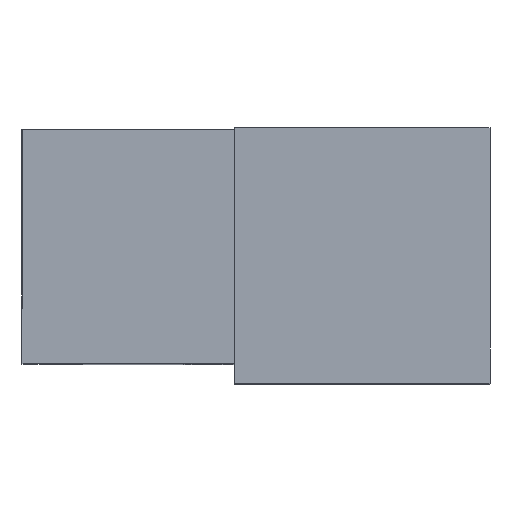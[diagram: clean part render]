
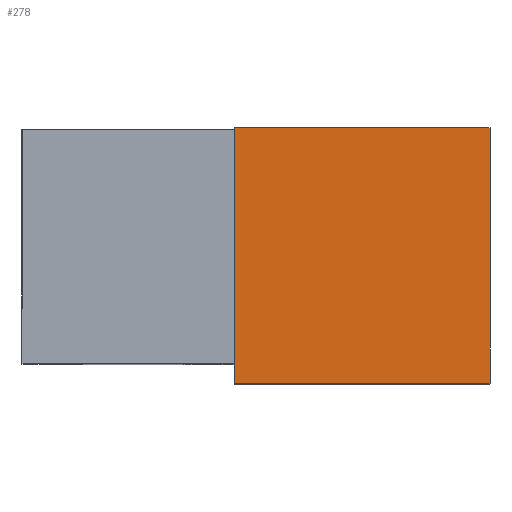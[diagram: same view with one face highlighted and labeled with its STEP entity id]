
A CAD part, top view. The second image highlights one B-rep face of the part: STEP entity #278.
In plain terms, the highlighted planar face has unit normal (0, 0, 1).
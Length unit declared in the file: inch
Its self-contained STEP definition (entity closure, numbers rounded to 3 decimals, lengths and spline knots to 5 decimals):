
#11 = FACE_OUTER_BOUND ( 'NONE', #587, .T. ) ;
#24 = ORIENTED_EDGE ( 'NONE', *, *, #522, .F. ) ;
#42 = VECTOR ( 'NONE', #675, 39.37008 ) ;
#50 = CARTESIAN_POINT ( 'NONE',  ( -1.0636, 0.375, 1.16833 ) ) ;
#62 = VERTEX_POINT ( 'NONE', #247 ) ;
#70 = EDGE_CURVE ( 'NONE', #413, #62, #426, .T. ) ;
#76 = CARTESIAN_POINT ( 'NONE',  ( -1.0636, 0.375, 1.16833 ) ) ;
#108 = ORIENTED_EDGE ( 'NONE', *, *, #543, .T. ) ;
#217 = CARTESIAN_POINT ( 'NONE',  ( -1.0636, 0., 1.16833 ) ) ;
#221 = CARTESIAN_POINT ( 'NONE',  ( -0.3761, 0.375, 1.16833 ) ) ;
#247 = CARTESIAN_POINT ( 'NONE',  ( -0.7511, 0.375, 1.16833 ) ) ;
#256 = DIRECTION ( 'NONE',  ( 0., -1., 0. ) ) ;
#261 = DIRECTION ( 'NONE',  ( 1., 0., 0. ) ) ;
#272 = CARTESIAN_POINT ( 'NONE',  ( -0.3761, 0.375, 1.16833 ) ) ;
#278 = ADVANCED_FACE ( 'NONE', ( #11 ), #606, .F. ) ;
#303 = DIRECTION ( 'NONE',  ( 0., 1., 0. ) ) ;
#307 = LINE ( 'NONE', #217, #664 ) ;
#345 = VECTOR ( 'NONE', #256, 39.37008 ) ;
#351 = DIRECTION ( 'NONE',  ( -1., 0., 0. ) ) ;
#379 = VERTEX_POINT ( 'NONE', #221 ) ;
#413 = VERTEX_POINT ( 'NONE', #476 ) ;
#426 = LINE ( 'NONE', #559, #477 ) ;
#454 = CARTESIAN_POINT ( 'NONE',  ( -0.3761, 0., 1.16833 ) ) ;
#455 = LINE ( 'NONE', #272, #345 ) ;
#476 = CARTESIAN_POINT ( 'NONE',  ( -0.7511, 0., 1.16833 ) ) ;
#477 = VECTOR ( 'NONE', #303, 39.37008 ) ;
#488 = AXIS2_PLACEMENT_3D ( 'NONE', #76, #650, #351 ) ;
#498 = LINE ( 'NONE', #50, #42 ) ;
#507 = EDGE_CURVE ( 'NONE', #379, #659, #455, .T. ) ;
#522 = EDGE_CURVE ( 'NONE', #62, #379, #498, .T. ) ;
#543 = EDGE_CURVE ( 'NONE', #413, #659, #307, .T. ) ;
#559 = CARTESIAN_POINT ( 'NONE',  ( -0.7511, 0., 1.16833 ) ) ;
#565 = ORIENTED_EDGE ( 'NONE', *, *, #507, .F. ) ;
#587 = EDGE_LOOP ( 'NONE', ( #24, #665, #108, #565 ) ) ;
#606 = PLANE ( 'NONE',  #488 ) ;
#650 = DIRECTION ( 'NONE',  ( 0., 0., -1. ) ) ;
#659 = VERTEX_POINT ( 'NONE', #454 ) ;
#664 = VECTOR ( 'NONE', #261, 39.37008 ) ;
#665 = ORIENTED_EDGE ( 'NONE', *, *, #70, .F. ) ;
#675 = DIRECTION ( 'NONE',  ( 1., 0., 0. ) ) ;
